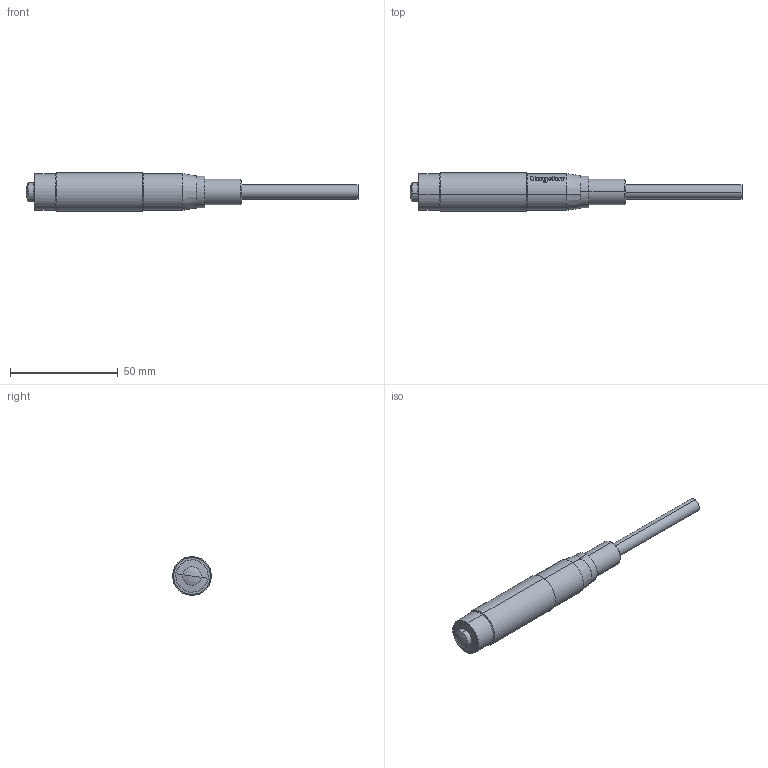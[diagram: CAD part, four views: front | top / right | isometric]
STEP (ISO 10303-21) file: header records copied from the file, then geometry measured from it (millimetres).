
FILE_DESCRIPTION (( 'STEP AP203' ), '1' );
FILE_NAME ('MT50-1.STEP', '2020-01-03T02:24:14', ( 'User' ), ( 'No' ), 'SwSTEP 2.0', 'SolidWorks 2012', '' );
FILE_SCHEMA (( 'CONFIG_CONTROL_DESIGN' ));
Length unit declared in the file: millimetre
Products named in the file (3): MT50-1_b_customer; MT50-1_a_customer; MT50-1
Assembly tree (2 placements, depth 2):
  MT50-1
    MT50-1_b_customer
    MT50-1_a_customer
Bounding box: 154 x 17.99 x 17.99 mm (x, y, z)
Volume: 20663.7 mm3; surface area: 16195.8 mm2
Topology: 2 solids, 2 shells, 132 faces, 333 edges, 219 vertices
Faces by surface type: bspline 49, plane 41, cylinder 28, torus 6, cone 4, sphere 4
Entity records: 10016 total; most frequent: CARTESIAN_POINT 6898, ORIENTED_EDGE 666, DIRECTION 452, EDGE_CURVE 333, VERTEX_POINT 219, AXIS2_PLACEMENT_3D 194, B_SPLINE_CURVE_WITH_KNOTS 163, EDGE_LOOP 148
